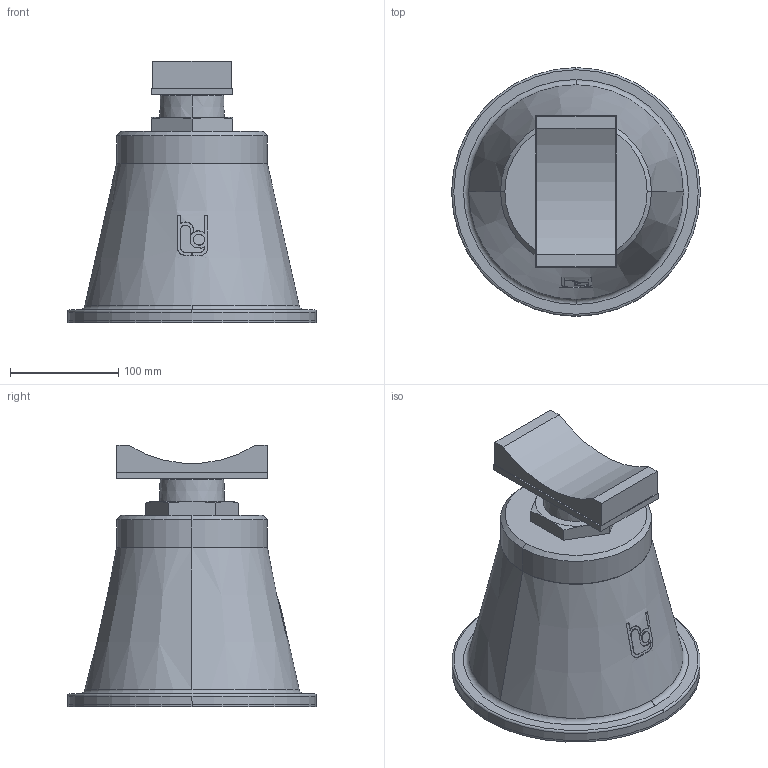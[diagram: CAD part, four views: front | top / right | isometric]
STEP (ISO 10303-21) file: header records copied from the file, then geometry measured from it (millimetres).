
FILE_DESCRIPTION(('STEP AP214'),'1');
FILE_NAME('RSRFN_DN200.stp','2018-06-29T12:47:50',(' '),(' '),'Spatial InterOp 3D',' ',' ');
FILE_SCHEMA(('automotive_design'));
Length unit declared in the file: millimetre
Products named in the file (6): 1; 2; 3; 4; 5; 6
Bounding box: 230 x 230 x 242 mm (x, y, z)
Volume: 4802683.6 mm3; surface area: 371072.4 mm2
Topology: 6 solids, 6 shells, 117 faces, 282 edges, 182 vertices
Faces by surface type: plane 49, cylinder 37, cone 23, torus 8
Entity records: 4852 total; most frequent: CARTESIAN_POINT 1045, DIRECTION 591, ORIENTED_EDGE 564, EDGE_CURVE 282, AXIS2_PLACEMENT_3D 228, VERTEX_POINT 182, LINE 135, VECTOR 135
